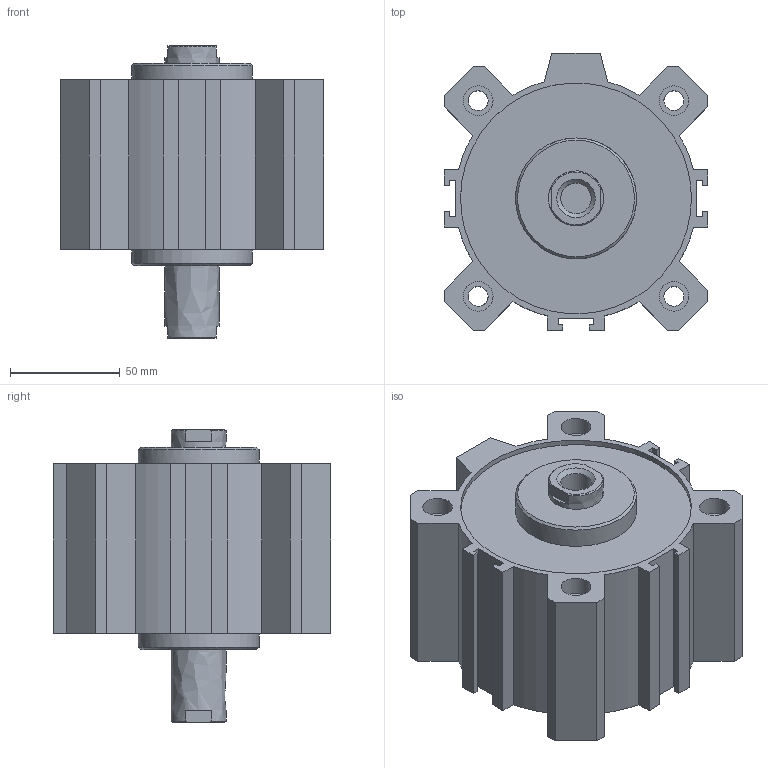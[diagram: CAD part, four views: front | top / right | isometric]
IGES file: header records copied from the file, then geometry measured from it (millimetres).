
Global section: file name: 1514_100_0025; native system: Autodesk Inventor 2014; preprocessor: unknown; author: A. Manieri; date: 20160824.163145; units: millimetre
Bounding box: 120 x 126 x 133 mm (x, y, z)
Volume: 736504.1 mm3; surface area: 149629.4 mm2
Topology: 2 solids, 2 shells, 132 faces, 346 edges, 238 vertices
Faces by surface type: bspline 132
